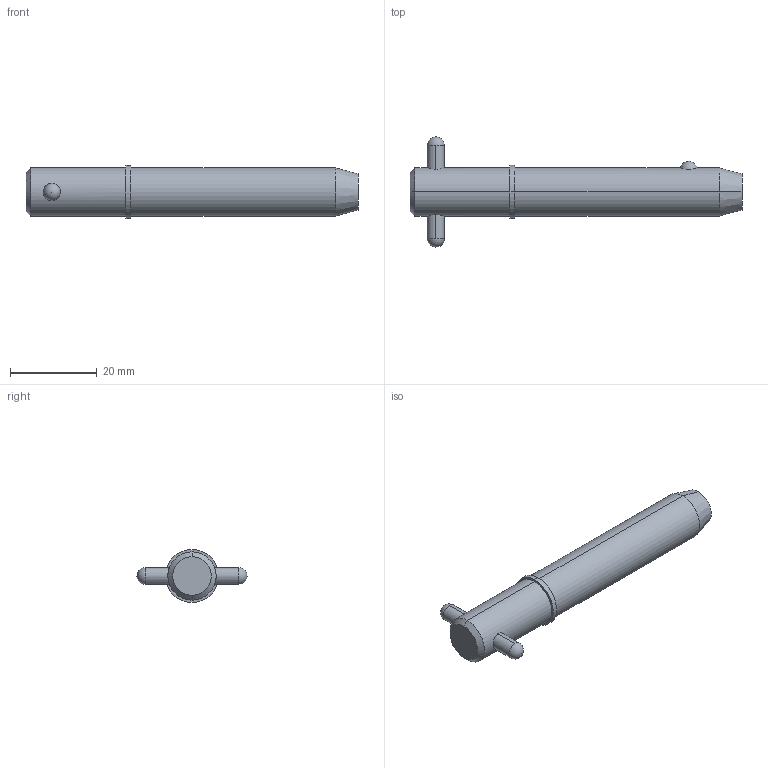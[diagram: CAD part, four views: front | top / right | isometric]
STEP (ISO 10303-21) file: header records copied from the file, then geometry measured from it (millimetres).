
FILE_DESCRIPTION (( 'STEP AP203' ), '1' );
FILE_NAME ('33018.W4315.step', '2024-11-19T17:12:48', ( '' ), ( '' ), 'SwSTEP 2.0', 'SolidWorks 2019', '' );
FILE_SCHEMA (( 'CONFIG_CONTROL_DESIGN' ));
Length unit declared in the file: millimetre
Products named in the file (3): Part1_33018.W4315; Part2_33018.W4315; 33018.W4315
Assembly tree (2 placements, depth 2):
  33018.W4315
    Part1_33018.W4315
    Part2_33018.W4315
Bounding box: 76.5 x 25.4 x 12.22 mm (x, y, z)
Volume: 7477.4 mm3; surface area: 3258.2 mm2
Topology: 2 solids, 2 shells, 22 faces, 47 edges, 30 vertices
Faces by surface type: cylinder 10, sphere 4, cone 4, plane 4
Entity records: 1031 total; most frequent: CARTESIAN_POINT 274, DIRECTION 110, ORIENTED_EDGE 82, AXIS2_PLACEMENT_3D 48, EDGE_CURVE 41, EDGE_LOOP 27, VERTEX_POINT 26, PERSON_AND_ORGANIZATION 26
